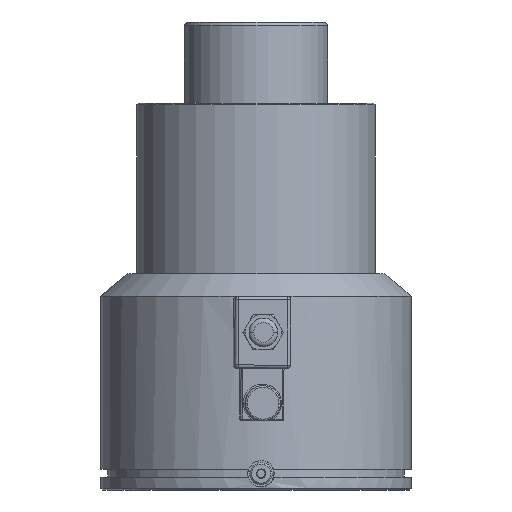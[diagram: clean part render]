
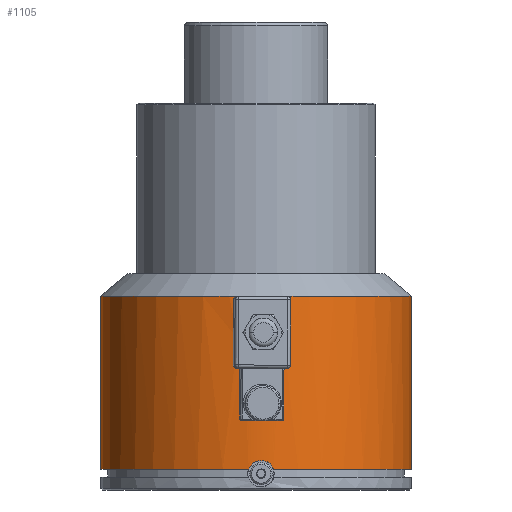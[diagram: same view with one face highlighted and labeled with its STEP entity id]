
A CAD part, front view. The second image highlights one B-rep face of the part: STEP entity #1105.
In plain terms, the highlighted cylindrical face has radius 97.5 mm (diameter 195 mm), a partial arc.
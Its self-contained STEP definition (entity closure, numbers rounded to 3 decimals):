
#85=CARTESIAN_POINT('Axis2P3D Location',(0.,0.,-9.)) ;
#277=CARTESIAN_POINT('Line Origine',(-97.5,0.,-15.5)) ;
#281=CARTESIAN_POINT('Vertex',(-97.5,0.,-18.)) ;
#283=CARTESIAN_POINT('Vertex',(-97.5,0.,90.735)) ;
#290=CARTESIAN_POINT('Vertex',(97.5,0.,90.735)) ;
#293=CARTESIAN_POINT('Line Origine',(97.5,0.,-15.5)) ;
#297=CARTESIAN_POINT('Vertex',(97.5,0.,-18.)) ;
#318=CARTESIAN_POINT('Control Point',(-10.303,-96.954,75.191)) ;
#319=CARTESIAN_POINT('Control Point',(-9.023,-97.09,77.526)) ;
#320=CARTESIAN_POINT('Control Point',(-7.226,-97.26,79.575)) ;
#321=CARTESIAN_POINT('Control Point',(-4.998,-97.419,81.19)) ;
#322=CARTESIAN_POINT('Control Point',(-0.102,-97.584,83.273)) ;
#323=CARTESIAN_POINT('Control Point',(5.203,-97.414,83.149)) ;
#324=CARTESIAN_POINT('Control Point',(7.732,-97.238,82.535)) ;
#325=CARTESIAN_POINT('Control Point',(11.441,-96.859,80.734)) ;
#326=CARTESIAN_POINT('Control Point',(14.315,-96.452,77.859)) ;
#327=CARTESIAN_POINT('Control Point',(15.253,-96.305,76.645)) ;
#328=CARTESIAN_POINT('Control Point',(17.41,-95.945,72.966)) ;
#329=CARTESIAN_POINT('Control Point',(18.201,-95.784,68.688)) ;
#330=CARTESIAN_POINT('Control Point',(18.068,-95.811,65.87)) ;
#331=CARTESIAN_POINT('Control Point',(17.308,-95.96,63.191)) ;
#332=CARTESIAN_POINT('Control Point',(16.013,-96.176,60.809)) ;
#333=CARTESIAN_POINT('Vertex',(-10.303,-96.954,75.191)) ;
#335=CARTESIAN_POINT('Vertex',(16.013,-96.176,60.809)) ;
#365=CARTESIAN_POINT('Control Point',(16.013,-96.176,60.809)) ;
#366=CARTESIAN_POINT('Control Point',(14.743,-96.388,58.474)) ;
#367=CARTESIAN_POINT('Control Point',(12.959,-96.663,56.425)) ;
#368=CARTESIAN_POINT('Control Point',(10.744,-96.954,54.81)) ;
#369=CARTESIAN_POINT('Control Point',(5.867,-97.407,52.727)) ;
#370=CARTESIAN_POINT('Control Point',(0.56,-97.551,52.851)) ;
#371=CARTESIAN_POINT('Control Point',(-1.974,-97.525,53.465)) ;
#372=CARTESIAN_POINT('Control Point',(-5.7,-97.366,55.266)) ;
#373=CARTESIAN_POINT('Control Point',(-8.592,-97.129,58.141)) ;
#374=CARTESIAN_POINT('Control Point',(-9.537,-97.038,59.355)) ;
#375=CARTESIAN_POINT('Control Point',(-11.712,-96.806,63.034)) ;
#376=CARTESIAN_POINT('Control Point',(-12.511,-96.692,67.312)) ;
#377=CARTESIAN_POINT('Control Point',(-12.377,-96.712,70.13)) ;
#378=CARTESIAN_POINT('Control Point',(-11.609,-96.815,72.809)) ;
#379=CARTESIAN_POINT('Control Point',(-10.303,-96.954,75.191)) ;
#993=CARTESIAN_POINT('Axis2P3D Location',(0.,0.,90.735)) ;
#1056=CARTESIAN_POINT('Axis2P3D Location',(0.,0.,-18.)) ;
#1060=CARTESIAN_POINT('Vertex',(11.058,-96.871,-18.)) ;
#1063=CARTESIAN_POINT('Axis2P3D Location',(0.,0.,-18.)) ;
#1067=CARTESIAN_POINT('Vertex',(-4.525,-97.395,-18.)) ;
#1071=CARTESIAN_POINT('Control Point',(-4.525,-97.395,-18.)) ;
#1072=CARTESIAN_POINT('Control Point',(-4.375,-97.402,-17.567)) ;
#1073=CARTESIAN_POINT('Control Point',(-4.188,-97.41,-17.147)) ;
#1074=CARTESIAN_POINT('Control Point',(-3.968,-97.419,-16.745)) ;
#1075=CARTESIAN_POINT('Vertex',(-3.968,-97.419,-16.745)) ;
#1079=CARTESIAN_POINT('Control Point',(11.058,-96.871,-18.)) ;
#1080=CARTESIAN_POINT('Control Point',(10.812,-96.899,-17.29)) ;
#1081=CARTESIAN_POINT('Control Point',(10.487,-96.935,-16.607)) ;
#1082=CARTESIAN_POINT('Control Point',(10.084,-96.979,-15.965)) ;
#1083=CARTESIAN_POINT('Control Point',(8.668,-97.122,-14.194)) ;
#1084=CARTESIAN_POINT('Control Point',(6.71,-97.283,-12.969)) ;
#1085=CARTESIAN_POINT('Control Point',(5.234,-97.378,-12.469)) ;
#1086=CARTESIAN_POINT('Control Point',(2.113,-97.507,-12.175)) ;
#1087=CARTESIAN_POINT('Control Point',(-0.827,-97.513,-13.286)) ;
#1088=CARTESIAN_POINT('Control Point',(-2.157,-97.486,-14.197)) ;
#1089=CARTESIAN_POINT('Control Point',(-3.223,-97.45,-15.383)) ;
#1090=CARTESIAN_POINT('Control Point',(-3.968,-97.419,-16.745)) ;
#86=DIRECTION('Axis2P3D Direction',(0.,0.,-1.)) ;
#87=DIRECTION('Axis2P3D XDirection',(1.,0.,0.)) ;
#278=DIRECTION('Vector Direction',(0.,0.,-1.)) ;
#294=DIRECTION('Vector Direction',(0.,0.,-1.)) ;
#994=DIRECTION('Axis2P3D Direction',(0.,0.,1.)) ;
#1057=DIRECTION('Axis2P3D Direction',(0.,0.,-1.)) ;
#1064=DIRECTION('Axis2P3D Direction',(0.,0.,-1.)) ;
#88=AXIS2_PLACEMENT_3D('Cylinder Axis2P3D',#85,#86,#87) ;
#995=AXIS2_PLACEMENT_3D('Circle Axis2P3D',#993,#994,$) ;
#1058=AXIS2_PLACEMENT_3D('Circle Axis2P3D',#1056,#1057,$) ;
#1065=AXIS2_PLACEMENT_3D('Circle Axis2P3D',#1063,#1064,$) ;
#1093=ORIENTED_EDGE('',*,*,#1062,.F.) ;
#1094=ORIENTED_EDGE('',*,*,#299,.T.) ;
#1095=ORIENTED_EDGE('',*,*,#997,.F.) ;
#1096=ORIENTED_EDGE('',*,*,#285,.F.) ;
#1097=ORIENTED_EDGE('',*,*,#1069,.F.) ;
#1098=ORIENTED_EDGE('',*,*,#1077,.T.) ;
#1099=ORIENTED_EDGE('',*,*,#1091,.F.) ;
#1102=ORIENTED_EDGE('',*,*,#337,.T.) ;
#1103=ORIENTED_EDGE('',*,*,#380,.T.) ;
#1104=FACE_BOUND('',#1101,.T.) ;
#279=VECTOR('Line Direction',#278,1.) ;
#295=VECTOR('Line Direction',#294,1.) ;
#1105=ADVANCED_FACE('',(#1100,#1104),#89,.T.) ;
#317=B_SPLINE_CURVE_WITH_KNOTS('',5,(#318,#319,#320,#321,#322,#323,#324,#325,#326,#327,#328,#329,#330,#331,#332),.UNSPECIFIED.,.F.,.U.,(6,3,3,3,6),(0.,18.851,36.724,47.509,66.742),.UNSPECIFIED.) ;
#364=B_SPLINE_CURVE_WITH_KNOTS('',5,(#365,#366,#367,#368,#369,#370,#371,#372,#373,#374,#375,#376,#377,#378,#379),.UNSPECIFIED.,.F.,.U.,(6,3,3,3,6),(0.,18.851,36.724,47.509,66.742),.UNSPECIFIED.) ;
#1070=B_SPLINE_CURVE_WITH_KNOTS('',3,(#1071,#1072,#1073,#1074),.UNSPECIFIED.,.F.,.U.,(4,4),(0.,1.945),.UNSPECIFIED.) ;
#1078=B_SPLINE_CURVE_WITH_KNOTS('',5,(#1079,#1080,#1081,#1082,#1083,#1084,#1085,#1086,#1087,#1088,#1089,#1090),.UNSPECIFIED.,.F.,.U.,(6,3,3,6),(0.,5.318,15.966,26.944),.UNSPECIFIED.) ;
#996=CIRCLE('generated circle',#995,97.5) ;
#1059=CIRCLE('generated circle',#1058,97.5) ;
#1066=CIRCLE('generated circle',#1065,97.5) ;
#89=CYLINDRICAL_SURFACE('generated cylinder',#88,97.5) ;
#285=EDGE_CURVE('',#282,#284,#280,.F.) ;
#299=EDGE_CURVE('',#298,#291,#296,.F.) ;
#337=EDGE_CURVE('',#334,#336,#317,.T.) ;
#380=EDGE_CURVE('',#336,#334,#364,.T.) ;
#997=EDGE_CURVE('',#284,#291,#996,.T.) ;
#1062=EDGE_CURVE('',#298,#1061,#1059,.T.) ;
#1069=EDGE_CURVE('',#1068,#282,#1066,.T.) ;
#1077=EDGE_CURVE('',#1068,#1076,#1070,.T.) ;
#1091=EDGE_CURVE('',#1061,#1076,#1078,.T.) ;
#1092=EDGE_LOOP('',(#1093,#1094,#1095,#1096,#1097,#1098,#1099)) ;
#1101=EDGE_LOOP('',(#1102,#1103)) ;
#1100=FACE_OUTER_BOUND('',#1092,.T.) ;
#280=LINE('Line',#277,#279) ;
#296=LINE('Line',#293,#295) ;
#282=VERTEX_POINT('',#281) ;
#284=VERTEX_POINT('',#283) ;
#291=VERTEX_POINT('',#290) ;
#298=VERTEX_POINT('',#297) ;
#334=VERTEX_POINT('',#333) ;
#336=VERTEX_POINT('',#335) ;
#1061=VERTEX_POINT('',#1060) ;
#1068=VERTEX_POINT('',#1067) ;
#1076=VERTEX_POINT('',#1075) ;
